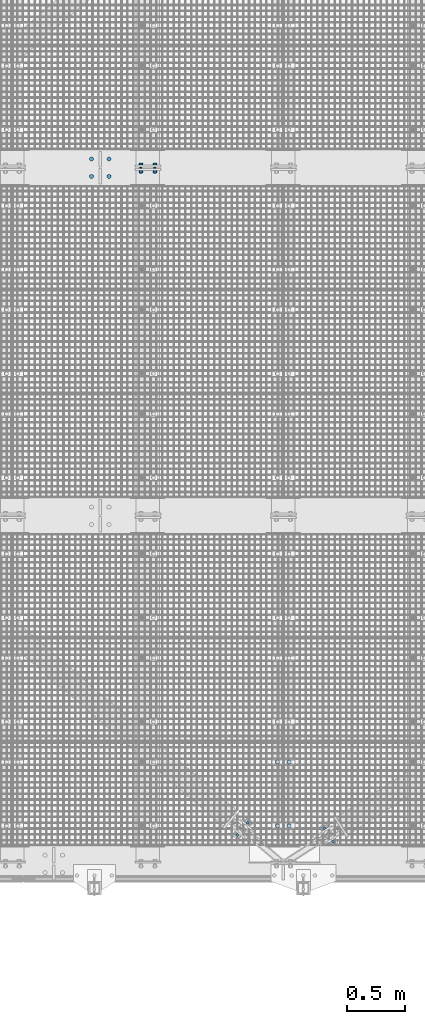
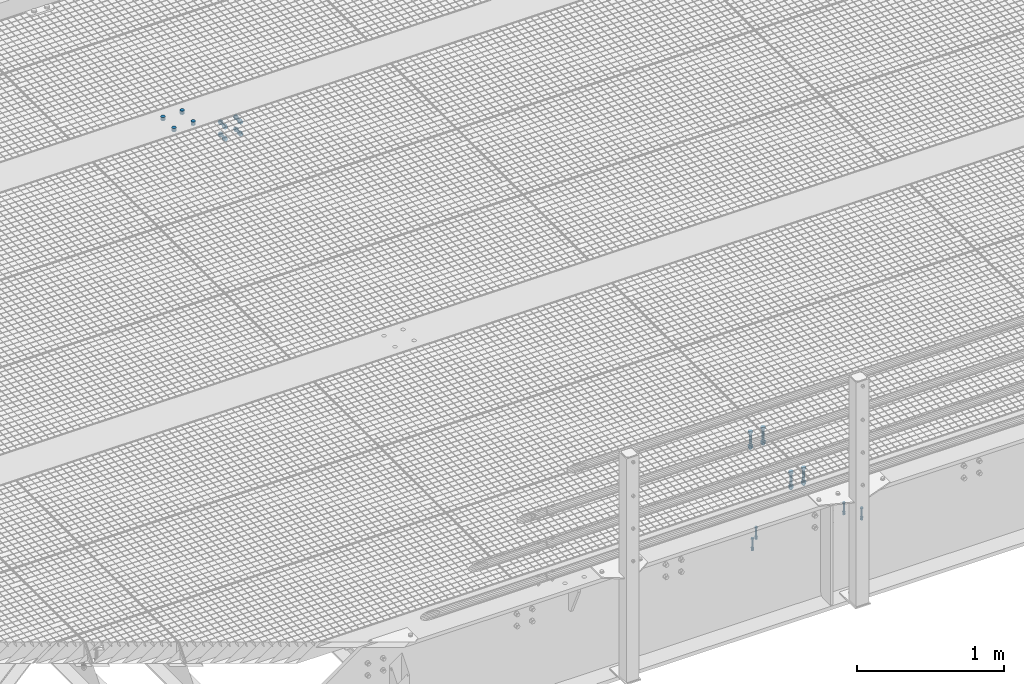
# One storey, part 16 of 1530: 6 mechanical fasteners.
"""IFC2X3 building model written with IfcOpenShell, lengths in millimetres."""

import ifcopenshell
import ifcopenshell.guid

model = None  # the IFC model being written
_history = None  # IfcOwnerHistory: only IFC2X3 demands one
_inside = {}  # id of a spatial element -> (the spatial element, [elements in it])
_under = {}  # id of a project, library or spatial element -> (it, [spatial elements below it])
_declared = {}  # id of a project -> (the project, [libraries it declares])
_typed = {}  # id of a type object -> (the type object, [elements of that type])
_made_of = {}  # id of a material, layer set ... -> (it, [elements and type objects made of it])


def new_model(schema):
    """Start an empty IFC model of exactly this schema.

    Asked for "IFC4X3", IfcOpenShell would pick the latest addendum, in which some entities
    have other attributes; the version numbers below select the first issue.
    IFC2X3 requires an IfcOwnerHistory on every rooted entity: one is made here for all.
    """
    global model, _history
    if schema == "IFC4X3":
        model = ifcopenshell.file(schema_version=(4, 3, 0, 0))
    else:
        model = ifcopenshell.file(schema=schema)
    _inside.clear()
    _under.clear()
    _declared.clear()
    _typed.clear()
    _made_of.clear()
    _history = None
    if model.schema == "IFC2X3":
        org = make("IfcOrganization", Name="unknown")
        user = make(
            "IfcPersonAndOrganization",
            ThePerson=make("IfcPerson", FamilyName="unknown"),
            TheOrganization=org,
        )
        app = make(
            "IfcApplication",
            ApplicationDeveloper=org,
            Version="unknown",
            ApplicationFullName="unknown",
            ApplicationIdentifier="unknown",
        )
        _history = make(
            "IfcOwnerHistory",
            OwningUser=user,
            OwningApplication=app,
            ChangeAction="ADDED",
            CreationDate=0,
        )
    return model


def make(cls, **values):
    """One entity of the class cls with the attributes given. An attribute that is None is left unset."""
    return model.create_entity(
        cls, **{name: value for name, value in values.items() if value is not None}
    )


def rooted(cls, **values):
    """An entity with a GlobalId (a new one), such as an element, a storey or a relation."""
    return make(cls, GlobalId=ifcopenshell.guid.new(), OwnerHistory=_history, **values)


def si_unit(unit_type, name, prefix=None):
    """IfcSIUnit, for example si_unit("LENGTHUNIT", "METRE", prefix="MILLI")."""
    return make("IfcSIUnit", UnitType=unit_type, Prefix=prefix, Name=name)


def assignment(units):
    """IfcUnitAssignment: the units of a project."""
    return None if units is None else make("IfcUnitAssignment", Units=units)


def point(xyz):
    """IfcCartesianPoint."""
    return None if xyz is None else make("IfcCartesianPoint", Coordinates=xyz)


def direction(xyz):
    """IfcDirection."""
    return None if xyz is None else make("IfcDirection", DirectionRatios=xyz)


def frame(location, z_axis=None, x_axis=None):
    """IfcAxis2Placement3D, a coordinate frame: its origin and axes. An axis left out is left unset."""
    return make(
        "IfcAxis2Placement3D",
        Location=point(location),
        Axis=direction(z_axis),
        RefDirection=direction(x_axis),
    )


def origin_with_axes():
    """The frame at (0, 0, 0) with the z axis (0, 0, 1) and the x axis (1, 0, 0) written out."""
    return frame((0.0, 0.0, 0.0), z_axis=(0.0, 0.0, 1.0), x_axis=(1.0, 0.0, 0.0))


def place(relative_to, where):
    """IfcLocalPlacement: puts the frame where relative to a parent placement (None: the world)."""
    return make(
        "IfcLocalPlacement", PlacementRelTo=relative_to, RelativePlacement=where
    )


def context(
    kind, dimensions, precision=None, world=None, true_north=None, identifier=None
):
    """IfcGeometricRepresentationContext, for example the 3D "Model" context."""
    return make(
        "IfcGeometricRepresentationContext",
        ContextIdentifier=identifier,
        ContextType=kind,
        CoordinateSpaceDimension=dimensions,
        Precision=precision,
        WorldCoordinateSystem=world,
        TrueNorth=true_north,
    )


def subcontext(parent, identifier, kind, view, scale=None):
    """IfcGeometricRepresentationSubContext, for example "Body" below "Model"."""
    return make(
        "IfcGeometricRepresentationSubContext",
        ContextIdentifier=identifier,
        ContextType=kind,
        ParentContext=parent,
        TargetScale=scale,
        TargetView=view,
    )


def project(units=None, contexts=None):
    """IfcProject with its units and contexts."""
    return rooted(
        "IfcProject",
        Name="project",
        RepresentationContexts=contexts,
        UnitsInContext=assignment(units),
    )


def spatial(cls, under=None, at=None, **own):
    """A site, building, storey or space (cls), placed at a placement, below another one or the project."""
    s = rooted(cls, ObjectPlacement=at, **own)
    if under is not None:
        _under.setdefault(under.id(), (under, []))[1].append(s)
    return s


def faces_of(points, faces, orient=None, outer=None):
    """IfcFace entities. A face is a list of loops; a loop is a list of indices into points, from 0.

    orient and outer hold one flag for each loop. By default every Orientation is true, the
    first loop of a face is its IfcFaceOuterBound and the others are IfcFaceBound.
    """
    made = []
    for i, loops in enumerate(faces):
        bounds = []
        for j, loop in enumerate(loops):
            is_outer = j == 0 if outer is None else outer[i][j]
            bounds.append(
                make(
                    "IfcFaceOuterBound" if is_outer else "IfcFaceBound",
                    Bound=make("IfcPolyLoop", Polygon=[points[k] for k in loop]),
                    Orientation=True if orient is None else orient[i][j],
                )
            )
        made.append(make("IfcFace", Bounds=bounds))
    return made


def faceted_brep(points, faces, orient=None, outer=None, voids=None):
    """IfcFacetedBrep: a solid bounded by flat faces; with voids (closed shells), ...WithVoids."""
    shared = [point(p) for p in points]
    hull = make("IfcClosedShell", CfsFaces=faces_of(shared, faces, orient, outer))
    if voids is None:
        return make("IfcFacetedBrep", Outer=hull)
    return make(
        "IfcFacetedBrepWithVoids",
        Outer=hull,
        Voids=[
            make(cls, CfsFaces=faces_of(shared, fs, o, b)) for cls, fs, o, b in voids
        ],
    )


def shape(context_of_items, identifier, shape_type, items):
    """IfcShapeRepresentation: the items that make up one representation, for example the "Body"."""
    return make(
        "IfcShapeRepresentation",
        ContextOfItems=context_of_items,
        RepresentationIdentifier=identifier,
        RepresentationType=shape_type,
        Items=items,
    )


def source(mapping_origin, context_of_items, identifier, shape_type, items):
    """IfcRepresentationMap: a shape defined once, which mapped items show again and again."""
    return make(
        "IfcRepresentationMap",
        MappingOrigin=mapping_origin,
        MappedRepresentation=shape(context_of_items, identifier, shape_type, items),
    )


def transform(
    local_origin,
    x_axis=None,
    y_axis=None,
    z_axis=None,
    scale=None,
    scale2=None,
    scale3=None,
    uniform=True,
):
    """IfcCartesianTransformationOperator3D, or its non-uniform kind. x_axis, y_axis, z_axis: its Axis1, 2, 3."""
    if uniform:
        return make(
            "IfcCartesianTransformationOperator3D",
            Axis1=direction(x_axis),
            Axis2=direction(y_axis),
            LocalOrigin=point(local_origin),
            Scale=scale,
            Axis3=direction(z_axis),
        )
    return make(
        "IfcCartesianTransformationOperator3DnonUniform",
        Axis1=direction(x_axis),
        Axis2=direction(y_axis),
        LocalOrigin=point(local_origin),
        Scale=scale,
        Axis3=direction(z_axis),
        Scale2=scale2,
        Scale3=scale3,
    )


def mapped(mapping_source, mapping_target):
    """IfcMappedItem: shows the shape of a source again, moved by a transform."""
    return make(
        "IfcMappedItem", MappingSource=mapping_source, MappingTarget=mapping_target
    )


def material(Name=None, Category=None):
    """IfcMaterial."""
    return make("IfcMaterial", Name=Name, Category=Category)


def made_of(thing, what):
    """Note that an element or type object is made of a material, layer set ...; save() writes the relation."""
    if what is not None:
        _made_of.setdefault(what.id(), (what, []))[1].append(thing)
    return thing


def type_object(cls, material=None, **own):
    """A type object (cls), such as IfcWallType, which elements share."""
    return made_of(rooted(cls, **own), material)


def element(
    cls,
    number,
    at=None,
    inside=None,
    cuts=None,
    type_object=None,
    material=None,
    context=None,
    identifier="Body",
    shape_type=None,
    held_by="IfcProductDefinitionShape",
    body=None,
    shapes=None,
    **own,
):
    """One element of the class cls, such as IfcWall. Its Tag is "e" and its number.

    at: its placement. inside: the storey or other place that contains it. cuts: it is an
    opening in that element (IfcRelVoidsElement). A single representation is given by context,
    identifier, shape_type and body (its items); several are given by shapes. held_by: the class
    of the entity that holds the representations. save() writes the other relations.
    """
    e = rooted(cls, Tag="e%d" % number, ObjectPlacement=at, **own)
    if body is not None:
        shapes = [shape(context, identifier, shape_type, body)]
    if shapes is not None:
        e.Representation = make(held_by, Representations=shapes)
    if inside is not None:
        _inside.setdefault(inside.id(), (inside, []))[1].append(e)
    if cuts is not None:
        rooted(
            "IfcRelVoidsElement", RelatingBuildingElement=cuts, RelatedOpeningElement=e
        )
    if type_object is not None:
        _typed.setdefault(type_object.id(), (type_object, []))[1].append(e)
    return made_of(e, material)


def aggregate(whole, parts):
    """IfcRelAggregates: a whole, such as a stair, and the parts it consists of."""
    return rooted("IfcRelAggregates", RelatingObject=whole, RelatedObjects=parts)


def save(model, path):
    """Write the relations noted so far, then the file.

    IfcRelAggregates (storeys below a building ...), IfcRelContainedInSpatialStructure (elements
    in a storey), IfcRelDefinesByType, IfcRelAssociatesMaterial and IfcRelDeclares: one each for
    every whole, place, type object, material and project.
    """
    for whole, parts in _under.values():
        aggregate(whole, parts)
    for where, things in _inside.values():
        rooted(
            "IfcRelContainedInSpatialStructure",
            RelatedElements=things,
            RelatingStructure=where,
        )
    for kind, things in _typed.values():
        rooted("IfcRelDefinesByType", RelatedObjects=things, RelatingType=kind)
    for what, things in _made_of.values():
        rooted("IfcRelAssociatesMaterial", RelatedObjects=things, RelatingMaterial=what)
    for by, libraries in _declared.values():
        rooted("IfcRelDeclares", RelatingContext=by, RelatedDefinitions=libraries)
    model.write(path)


model = new_model("IFC2X3")

# Units and contexts
model_context = context("Model", 3, precision=1e-05, world=origin_with_axes())
body_context = subcontext(model_context, "Body", "Model", "MODEL_VIEW")
ifc_project = project(units=[si_unit("LENGTHUNIT", "METRE", prefix="MILLI"), si_unit("AREAUNIT", "SQUARE_METRE"), si_unit("VOLUMEUNIT", "CUBIC_METRE"), si_unit("MASSUNIT", "GRAM", prefix="KILO"), si_unit("TIMEUNIT", "SECOND"), si_unit("PLANEANGLEUNIT", "RADIAN"), si_unit("SOLIDANGLEUNIT", "STERADIAN"), si_unit("THERMODYNAMICTEMPERATUREUNIT", "DEGREE_CELSIUS"), si_unit("LUMINOUSINTENSITYUNIT", "LUMEN")], contexts=[model_context])

# Site, building, storey
site_placement = place(None, origin_with_axes())
site = spatial("IfcSite", under=ifc_project, at=site_placement, Name="Brattvåg", CompositionType="ELEMENT")
building_placement = place(site_placement, origin_with_axes())
building = spatial("IfcBuilding", under=site, at=building_placement, Name="Undefined", CompositionType="ELEMENT")
storey_placement = place(building_placement, origin_with_axes())
storey = spatial("IfcBuildingStorey", under=building, at=storey_placement, Name="Undefined", CompositionType="ELEMENT", Elevation=0.0)

# Mechanical fasteners
ifc_material = material(Name="8")
mechanical_fastener_type = type_object("IfcMechanicalFastenerType", Name="Bolt assembly")
shared_shape_1 = source(origin_with_axes(), body_context, "Body", "Brep", [
    faceted_brep([(10.3923048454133, -9.99999999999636, 0.0), (5.19615242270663, -9.99999999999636, 9.0), (-5.19615242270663, -9.99999999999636, 9.0), (-10.3923048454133, -9.99999999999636, 1.27269028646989e-15), (-5.19615242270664, -9.99999999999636, -9.0), (5.19615242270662, -9.99999999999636, -9.0), (5.19615242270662, -2.49999999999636, -9.0), (-5.19615242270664, -2.49999999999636, -9.0), (-10.3923048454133, -2.49999999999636, 1.27269028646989e-15), (-5.19615242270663, -2.49999999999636, 9.0), (5.19615242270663, -2.49999999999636, 9.0), (10.3923048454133, -2.49999999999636, 0.0), (6.0, -2.49999999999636, 0.0), (5.19615242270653, -2.49999999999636, 3.00000000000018), (2.99999999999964, -2.49999999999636, 5.19615242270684), (-6.21801588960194e-13, -2.49999999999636, 6.0), (-3.00000000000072, -2.49999999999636, 5.19615242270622), (-5.19615242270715, -2.49999999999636, 2.9999999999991), (-6.0, -2.49999999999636, -1.24360317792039e-12), (-5.19615242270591, -2.49999999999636, -3.00000000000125), (-2.99999999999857, -2.49999999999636, -5.19615242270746), (1.85874342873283e-12, -2.49999999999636, -6.0), (3.00000000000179, -2.49999999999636, -5.1961524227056), (5.19615242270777, -2.49999999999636, -2.99999999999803), (5.19615242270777, 97.4999999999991, -2.99999999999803), (3.00000000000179, 97.4999999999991, -5.1961524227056), (1.85874342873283e-12, 97.4999999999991, -6.0), (-2.99999999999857, 97.4999999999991, -5.19615242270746), (-5.19615242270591, 97.4999999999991, -3.00000000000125), (-6.0, 97.4999999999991, -1.24360317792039e-12), (-5.19615242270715, 97.4999999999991, 2.9999999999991), (-3.00000000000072, 97.4999999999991, 5.19615242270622), (-6.21801588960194e-13, 97.4999999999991, 6.0), (2.99999999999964, 97.4999999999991, 5.19615242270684), (5.19615242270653, 97.4999999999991, 3.00000000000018), (6.0, 97.4999999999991, 0.0), (12.0, -2.49999999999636, 0.0), (10.3923048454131, -2.49999999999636, 6.00000000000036), (5.99999999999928, -2.49999999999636, 10.3923048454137), (-1.24360317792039e-12, -2.49999999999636, 12.0), (-6.00000000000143, -2.49999999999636, 10.3923048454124), (-10.3923048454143, -2.49999999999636, 5.99999999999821), (-12.0, -2.49999999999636, -2.48720635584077e-12), (-10.3923048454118, -2.49999999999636, -6.00000000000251), (-5.99999999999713, -2.49999999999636, -10.3923048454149), (3.71748685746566e-12, -2.49999999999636, -12.0), (6.00000000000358, -2.49999999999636, -10.3923048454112), (10.3923048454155, -2.49999999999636, -5.99999999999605), (10.3923048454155, 3.63797880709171e-12, -5.99999999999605), (6.00000000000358, 3.63797880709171e-12, -10.3923048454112), (3.71748685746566e-12, 3.63797880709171e-12, -12.0), (-5.99999999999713, 3.63797880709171e-12, -10.3923048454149), (-10.3923048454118, 3.63797880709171e-12, -6.00000000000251), (-12.0, 3.63797880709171e-12, -2.48720635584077e-12), (-10.3923048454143, 3.63797880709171e-12, 5.99999999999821), (-6.00000000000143, 3.63797880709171e-12, 10.3923048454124), (-1.24360317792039e-12, 3.63797880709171e-12, 12.0), (5.99999999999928, 3.63797880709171e-12, 10.3923048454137), (10.3923048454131, 3.63797880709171e-12, 6.00000000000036), (12.0, 3.63797880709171e-12, 0.0), (12.0, 69.9999999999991, 0.0), (10.3923048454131, 69.9999999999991, 6.00000000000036), (5.99999999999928, 69.9999999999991, 10.3923048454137), (-1.24360317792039e-12, 69.9999999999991, 12.0), (-6.00000000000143, 69.9999999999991, 10.3923048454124), (-10.3923048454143, 69.9999999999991, 5.99999999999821), (-12.0, 69.9999999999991, -2.48720635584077e-12), (-10.3923048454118, 69.9999999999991, -6.00000000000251), (-5.99999999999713, 69.9999999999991, -10.3923048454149), (3.71748685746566e-12, 69.9999999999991, -12.0), (6.00000000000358, 69.9999999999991, -10.3923048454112), (10.3923048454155, 69.9999999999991, -5.99999999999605), (10.3923048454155, 72.4999999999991, -5.99999999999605), (6.00000000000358, 72.4999999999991, -10.3923048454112), (3.71748685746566e-12, 72.4999999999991, -12.0), (-5.99999999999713, 72.4999999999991, -10.3923048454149), (-10.3923048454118, 72.4999999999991, -6.00000000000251), (-12.0, 72.4999999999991, -2.48720635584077e-12), (-10.3923048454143, 72.4999999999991, 5.99999999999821), (-6.00000000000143, 72.4999999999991, 10.3923048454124), (-1.24360317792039e-12, 72.4999999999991, 12.0), (5.99999999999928, 72.4999999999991, 10.3923048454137), (10.3923048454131, 72.4999999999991, 6.00000000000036), (12.0, 72.4999999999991, 0.0), (10.3923048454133, 72.4999999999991, 0.0), (5.19615242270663, 72.4999999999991, 9.0), (-5.19615242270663, 72.4999999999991, 9.0), (-10.3923048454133, 72.4999999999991, 1.27269028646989e-15), (-5.19615242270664, 72.4999999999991, -9.0), (5.19615242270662, 72.4999999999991, -9.0), (5.19615242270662, 83.300000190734, -9.0), (-5.19615242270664, 83.300000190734, -9.0), (-10.3923048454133, 83.300000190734, 1.27269028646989e-15), (-5.19615242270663, 83.300000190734, 9.0), (5.19615242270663, 83.300000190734, 9.0), (10.3923048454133, 83.300000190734, 0.0), (9.0, 83.300000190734, 5.19615242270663), (6.36345143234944e-16, 83.300000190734, 10.3923048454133), (-9.0, 83.300000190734, 5.19615242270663), (-9.0, 83.300000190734, -5.19615242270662), (-1.11392563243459e-14, 83.300000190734, -10.3923048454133), (8.99999999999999, 83.300000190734, -5.19615242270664), (8.99999999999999, 94.1000003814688, -5.19615242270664), (-1.11392563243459e-14, 94.1000003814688, -10.3923048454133), (-9.0, 94.1000003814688, -5.19615242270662), (-9.0, 94.1000003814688, 5.19615242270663), (6.36345143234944e-16, 94.1000003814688, 10.3923048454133), (9.0, 94.1000003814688, 5.19615242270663)], [[[0, 1, 2, 3, 4, 5]], [[6, 7, 8, 9, 10, 11]], [[0, 11, 10, 1]], [[1, 10, 9, 2]], [[2, 9, 8, 3]], [[3, 8, 7, 4]], [[4, 7, 6, 5]], [[5, 6, 11, 0]], [[12, 13, 14, 15, 16, 17, 18, 19, 20, 21, 22, 23]], [[24, 25, 26, 27, 28, 29, 30, 31, 32, 33, 34, 35]], [[12, 35, 34, 13]], [[13, 34, 33, 14]], [[14, 33, 32, 15]], [[15, 32, 31, 16]], [[16, 31, 30, 17]], [[17, 30, 29, 18]], [[18, 29, 28, 19]], [[19, 28, 27, 20]], [[20, 27, 26, 21]], [[21, 26, 25, 22]], [[22, 25, 24, 23]], [[23, 24, 35, 12]], [[36, 37, 38, 39, 40, 41, 42, 43, 44, 45, 46, 47]], [[48, 49, 50, 51, 52, 53, 54, 55, 56, 57, 58, 59]], [[36, 59, 58, 37]], [[37, 58, 57, 38]], [[38, 57, 56, 39]], [[39, 56, 55, 40]], [[40, 55, 54, 41]], [[41, 54, 53, 42]], [[42, 53, 52, 43]], [[43, 52, 51, 44]], [[44, 51, 50, 45]], [[45, 50, 49, 46]], [[46, 49, 48, 47]], [[47, 48, 59, 36]], [[60, 61, 62, 63, 64, 65, 66, 67, 68, 69, 70, 71]], [[72, 73, 74, 75, 76, 77, 78, 79, 80, 81, 82, 83]], [[60, 83, 82, 61]], [[61, 82, 81, 62]], [[62, 81, 80, 63]], [[63, 80, 79, 64]], [[64, 79, 78, 65]], [[65, 78, 77, 66]], [[66, 77, 76, 67]], [[67, 76, 75, 68]], [[68, 75, 74, 69]], [[69, 74, 73, 70]], [[70, 73, 72, 71]], [[71, 72, 83, 60]], [[84, 85, 86, 87, 88, 89]], [[90, 91, 92, 93, 94, 95]], [[84, 95, 94, 85]], [[85, 94, 93, 86]], [[86, 93, 92, 87]], [[87, 92, 91, 88]], [[88, 91, 90, 89]], [[89, 90, 95, 84]], [[96, 97, 98, 99, 100, 101]], [[102, 103, 104, 105, 106, 107]], [[96, 107, 106, 97]], [[97, 106, 105, 98]], [[98, 105, 104, 99]], [[99, 104, 103, 100]], [[100, 103, 102, 101]], [[101, 102, 107, 96]]]),
    faceted_brep([(7.0, -9.09494701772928e-13, 0.0), (6.06217782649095, -9.09494701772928e-13, 3.50000000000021), (3.49999999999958, -9.09494701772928e-13, 6.06217782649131), (-7.25435187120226e-13, -9.09494701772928e-13, 7.0), (-3.50000000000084, -9.09494701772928e-13, 6.06217782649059), (-6.06217782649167, -9.09494701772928e-13, 3.49999999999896), (-7.0, -9.09494701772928e-13, -1.45087037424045e-12), (-6.06217782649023, -9.09494701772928e-13, -3.50000000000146), (-3.49999999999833, -9.09494701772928e-13, -6.06217782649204), (2.1685340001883e-12, -9.09494701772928e-13, -7.0), (3.50000000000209, -9.09494701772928e-13, -6.06217782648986), (6.0621778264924, -9.09494701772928e-13, -3.4999999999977), (6.0621778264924, 70.0999999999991, -3.4999999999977), (3.50000000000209, 70.0999999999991, -6.06217782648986), (2.1685340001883e-12, 70.0999999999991, -7.0), (-3.49999999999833, 70.0999999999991, -6.06217782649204), (-6.06217782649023, 70.0999999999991, -3.50000000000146), (-7.0, 70.0999999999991, -1.45087037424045e-12), (-6.06217782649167, 70.0999999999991, 3.49999999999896), (-3.50000000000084, 70.0999999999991, 6.06217782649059), (-7.25435187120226e-13, 70.0999999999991, 7.0), (3.49999999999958, 70.0999999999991, 6.06217782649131), (6.06217782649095, 70.0999999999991, 3.50000000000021), (7.0, 70.0999999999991, 0.0)], [[[0, 1, 2, 3, 4, 5, 6, 7, 8, 9, 10, 11]], [[12, 13, 14, 15, 16, 17, 18, 19, 20, 21, 22, 23]], [[0, 23, 22, 1]], [[1, 22, 21, 2]], [[2, 21, 20, 3]], [[3, 20, 19, 4]], [[4, 19, 18, 5]], [[5, 18, 17, 6]], [[6, 17, 16, 7]], [[7, 16, 15, 8]], [[8, 15, 14, 9]], [[9, 14, 13, 10]], [[10, 13, 12, 11]], [[11, 12, 23, 0]]]),
])
for number, where, z_axis, x_axis, name in (
    (1, (7269.75219366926, 353.425214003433, -410.000000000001), (0.759623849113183, -0.650362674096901, 0.0), (-0.650362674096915, -0.759623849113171, 0.0), "Bolt assembly"),
    (2, (8005.18165441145, 193.501244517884, -410.000000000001), (-0.841459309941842, -0.540320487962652, 0.0), (-0.540320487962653, 0.841459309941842, 0.0), "Bolt assembly"),
):
    element("IfcMechanicalFastener", number, at=place(storey_placement, frame(where, z_axis=z_axis, x_axis=x_axis)), inside=storey, type_object=mechanical_fastener_type, material=ifc_material, Name=name, NominalDiameter=12.0, NominalLength=100.0, context=body_context, shape_type="MappedRepresentation", body=[
        mapped(shared_shape_1, transform((0.0, 0.0, 0.0))),
        mapped(shared_shape_1, transform((136.0, 0.0, 0.0))),
    ])
shared_shape_2 = source(origin_with_axes(), body_context, "Body", "Brep", [
    faceted_brep([(17.3205080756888, -10.5, 0.0), (8.66025403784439, -10.5, 15.0), (-8.66025403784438, -10.5, 15.0), (-17.3205080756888, -10.5, 2.12115047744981e-15), (-8.66025403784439, -10.5, -15.0), (8.66025403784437, -10.5, -15.0), (8.66025403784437, 2.0, -15.0), (-8.66025403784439, 2.0, -15.0), (-17.3205080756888, 2.0, 2.12115047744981e-15), (-8.66025403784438, 2.0, 15.0), (8.66025403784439, 2.0, 15.0), (17.3205080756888, 2.0, 0.0), (10.0, 2.0, 0.0), (8.66025403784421, 2.0, 5.0000000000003), (4.9999999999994, 2.0, 8.66025403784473), (-1.03633598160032e-12, 2.0, 10.0), (-5.00000000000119, 2.0, 8.6602540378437), (-8.66025403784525, 2.0, 4.99999999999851), (-10.0, 2.0, -2.07267196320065e-12), (-8.66025403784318, 2.0, -5.00000000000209), (-4.99999999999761, 2.0, -8.66025403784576), (3.09790571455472e-12, 2.0, -10.0), (5.00000000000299, 2.0, -8.66025403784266), (8.66025403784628, 2.0, -4.99999999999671), (8.66025403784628, 142.0, -4.99999999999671), (5.00000000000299, 142.0, -8.66025403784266), (3.09790571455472e-12, 142.0, -10.0), (-4.99999999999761, 142.0, -8.66025403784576), (-8.66025403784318, 142.0, -5.00000000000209), (-10.0, 142.0, -2.07267196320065e-12), (-8.66025403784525, 142.0, 4.99999999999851), (-5.00000000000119, 142.0, 8.6602540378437), (-1.03633598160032e-12, 142.0, 10.0), (4.9999999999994, 142.0, 8.66025403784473), (8.66025403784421, 142.0, 5.0000000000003), (10.0, 142.0, 0.0), (18.5, 2.0, 0.0), (16.0214699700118, 2.0, 9.25000000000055), (9.2499999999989, 2.0, 16.0214699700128), (-1.9172215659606e-12, 2.0, 18.5), (-9.25000000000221, 2.0, 16.0214699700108), (-16.0214699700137, 2.0, 9.24999999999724), (-18.5, 2.0, -3.83444313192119e-12), (-16.0214699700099, 2.0, -9.25000000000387), (-9.24999999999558, 2.0, -16.0214699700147), (5.73112557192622e-12, 2.0, -18.5), (9.25000000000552, 2.0, -16.0214699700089), (16.0214699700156, 2.0, -9.24999999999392), (16.0214699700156, 5.0, -9.24999999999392), (9.25000000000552, 5.0, -16.0214699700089), (5.73112557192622e-12, 5.0, -18.5), (-9.24999999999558, 5.0, -16.0214699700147), (-16.0214699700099, 5.0, -9.25000000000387), (-18.5, 5.0, -3.83444313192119e-12), (-16.0214699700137, 5.0, 9.24999999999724), (-9.25000000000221, 5.0, 16.0214699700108), (-1.9172215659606e-12, 5.0, 18.5), (9.2499999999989, 5.0, 16.0214699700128), (16.0214699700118, 5.0, 9.25000000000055), (18.5, 5.0, 0.0), (18.5, 109.998931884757, 0.0), (16.0214699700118, 109.998931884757, 9.25000000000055), (9.2499999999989, 109.998931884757, 16.0214699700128), (-1.9172215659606e-12, 109.998931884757, 18.5), (-9.25000000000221, 109.998931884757, 16.0214699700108), (-16.0214699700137, 109.998931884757, 9.24999999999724), (-18.5, 109.998931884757, -3.83444313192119e-12), (-16.0214699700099, 109.998931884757, -9.25000000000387), (-9.24999999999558, 109.998931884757, -16.0214699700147), (5.73112557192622e-12, 109.998931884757, -18.5), (9.25000000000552, 109.998931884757, -16.0214699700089), (16.0214699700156, 109.998931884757, -9.24999999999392), (16.0214699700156, 112.998931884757, -9.24999999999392), (9.25000000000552, 112.998931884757, -16.0214699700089), (5.73112557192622e-12, 112.998931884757, -18.5), (-9.24999999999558, 112.998931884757, -16.0214699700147), (-16.0214699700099, 112.998931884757, -9.25000000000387), (-18.5, 112.998931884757, -3.83444313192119e-12), (-16.0214699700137, 112.998931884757, 9.24999999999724), (-9.25000000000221, 112.998931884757, 16.0214699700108), (-1.9172215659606e-12, 112.998931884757, 18.5), (9.2499999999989, 112.998931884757, 16.0214699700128), (16.0214699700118, 112.998931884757, 9.25000000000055), (18.5, 112.998931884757, 0.0), (17.3205080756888, 112.998931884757, 0.0), (8.66025403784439, 112.998931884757, 15.0), (-8.66025403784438, 112.998931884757, 15.0), (-17.3205080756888, 112.998931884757, 2.12115047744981e-15), (-8.66025403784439, 112.998931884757, -15.0), (8.66025403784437, 112.998931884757, -15.0), (8.66025403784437, 130.998931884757, -15.0), (-8.66025403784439, 130.998931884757, -15.0), (-17.3205080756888, 130.998931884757, 2.12115047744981e-15), (-8.66025403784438, 130.998931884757, 15.0), (8.66025403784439, 130.998931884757, 15.0), (17.3205080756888, 130.998931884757, 0.0)], [[[0, 1, 2, 3, 4, 5]], [[6, 7, 8, 9, 10, 11]], [[0, 11, 10, 1]], [[1, 10, 9, 2]], [[2, 9, 8, 3]], [[3, 8, 7, 4]], [[4, 7, 6, 5]], [[5, 6, 11, 0]], [[12, 13, 14, 15, 16, 17, 18, 19, 20, 21, 22, 23]], [[24, 25, 26, 27, 28, 29, 30, 31, 32, 33, 34, 35]], [[12, 35, 34, 13]], [[13, 34, 33, 14]], [[14, 33, 32, 15]], [[15, 32, 31, 16]], [[16, 31, 30, 17]], [[17, 30, 29, 18]], [[18, 29, 28, 19]], [[19, 28, 27, 20]], [[20, 27, 26, 21]], [[21, 26, 25, 22]], [[22, 25, 24, 23]], [[23, 24, 35, 12]], [[36, 37, 38, 39, 40, 41, 42, 43, 44, 45, 46, 47]], [[48, 49, 50, 51, 52, 53, 54, 55, 56, 57, 58, 59]], [[36, 59, 58, 37]], [[37, 58, 57, 38]], [[38, 57, 56, 39]], [[39, 56, 55, 40]], [[40, 55, 54, 41]], [[41, 54, 53, 42]], [[42, 53, 52, 43]], [[43, 52, 51, 44]], [[44, 51, 50, 45]], [[45, 50, 49, 46]], [[46, 49, 48, 47]], [[47, 48, 59, 36]], [[60, 61, 62, 63, 64, 65, 66, 67, 68, 69, 70, 71]], [[72, 73, 74, 75, 76, 77, 78, 79, 80, 81, 82, 83]], [[60, 83, 82, 61]], [[61, 82, 81, 62]], [[62, 81, 80, 63]], [[63, 80, 79, 64]], [[64, 79, 78, 65]], [[65, 78, 77, 66]], [[66, 77, 76, 67]], [[67, 76, 75, 68]], [[68, 75, 74, 69]], [[69, 74, 73, 70]], [[70, 73, 72, 71]], [[71, 72, 83, 60]], [[84, 85, 86, 87, 88, 89]], [[90, 91, 92, 93, 94, 95]], [[84, 95, 94, 85]], [[85, 94, 93, 86]], [[86, 93, 92, 87]], [[87, 92, 91, 88]], [[88, 91, 90, 89]], [[89, 90, 95, 84]]]),
])
for number, where, z_axis, x_axis, name in (
    (3, (7628.00477935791, 327.919311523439, -25.0), (-1.0, 1.99999855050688e-09, 0.0), (0.0, 1.0, 0.0), "Bolt assembly"),
    (4, (7528.01487731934, 327.920486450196, -25.0), (-1.0, 1.99999855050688e-09, 0.0), (0.0, 1.0, 0.0), "Bolt assembly"),
):
    element("IfcMechanicalFastener", number, at=place(storey_placement, frame(where, z_axis=z_axis, x_axis=x_axis)), inside=storey, type_object=mechanical_fastener_type, material=ifc_material, Name=name, NominalDiameter=20.0, NominalLength=140.0, context=body_context, shape_type="MappedRepresentation", body=[
        mapped(shared_shape_2, transform((0.0, 0.0, 0.0))),
        mapped(shared_shape_2, transform((549.999999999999, 0.0, 0.0))),
    ])
shared_shape_3 = source(origin_with_axes(), body_context, "Body", "Brep", [
    faceted_brep([(16.0, 0.0, 0.0), (13.8564064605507, 0.0, 8.00000000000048), (7.99999999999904, 0.0, 13.8564064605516), (-1.65813757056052e-12, 0.0, 16.0), (-8.00000000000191, 0.0, 13.8564064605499), (-13.8564064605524, 0.0, 7.99999999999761), (-16.0, 0.0, -3.31627514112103e-12), (-13.8564064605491, 0.0, -8.00000000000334), (-7.99999999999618, 0.0, -13.8564064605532), (4.95664914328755e-12, 0.0, -16.0), (8.00000000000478, 0.0, -13.8564064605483), (13.8564064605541, 0.0, -7.99999999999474), (13.8564064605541, 30.1, -7.99999999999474), (8.00000000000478, 30.1, -13.8564064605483), (4.95664914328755e-12, 30.1, -16.0), (-7.99999999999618, 30.1, -13.8564064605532), (-13.8564064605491, 30.1, -8.00000000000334), (-16.0, 30.1, -3.31627514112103e-12), (-13.8564064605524, 30.1, 7.99999999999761), (-8.00000000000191, 30.1, 13.8564064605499), (-1.65813757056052e-12, 30.1, 16.0), (7.99999999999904, 30.1, 13.8564064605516), (13.8564064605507, 30.1, 8.00000000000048), (16.0, 30.1, 0.0)], [[[0, 1, 2, 3, 4, 5, 6, 7, 8, 9, 10, 11]], [[12, 13, 14, 15, 16, 17, 18, 19, 20, 21, 22, 23]], [[0, 23, 22, 1]], [[1, 22, 21, 2]], [[2, 21, 20, 3]], [[3, 20, 19, 4]], [[4, 19, 18, 5]], [[5, 18, 17, 6]], [[6, 17, 16, 7]], [[7, 16, 15, 8]], [[8, 15, 14, 9]], [[9, 14, 13, 10]], [[10, 13, 12, 11]], [[11, 12, 23, 0]]]),
])
mechanical_fastener_1_placement = place(storey_placement, frame((6075.0, 6000.0, 0.0), z_axis=(0.0, -1.0, 0.0), x_axis=(-1.0, 1.99999855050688e-09, 0.0)))
element("IfcMechanicalFastener", 5, at=mechanical_fastener_1_placement, inside=storey, type_object=mechanical_fastener_type, material=ifc_material, Name="Bolt assembly", NominalDiameter=30.0, NominalLength=30.0, context=body_context, shape_type="MappedRepresentation", body=[
    mapped(shared_shape_3, transform((0.0, 0.0, -75.0))),
    mapped(shared_shape_3, transform((150.0, 0.0, -75.0))),
    mapped(shared_shape_3, transform((0.0, 0.0, 75.0))),
    mapped(shared_shape_3, transform((150.0, 0.0, 75.0))),
])
shared_shape_4 = source(origin_with_axes(), body_context, "Body", "Brep", [
    faceted_brep([(17.3205080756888, -15.5000000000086, 0.0), (8.66025403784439, -15.5000000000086, 15.0), (-8.66025403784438, -15.5000000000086, 15.0), (-17.3205080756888, -15.5000000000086, 2.12115047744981e-15), (-8.66025403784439, -15.5000000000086, -15.0), (8.66025403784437, -15.5000000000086, -15.0), (8.66025403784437, -3.00000000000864, -15.0), (-8.66025403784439, -3.00000000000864, -15.0), (-17.3205080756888, -3.00000000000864, 2.12115047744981e-15), (-8.66025403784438, -3.00000000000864, 15.0), (8.66025403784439, -3.00000000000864, 15.0), (17.3205080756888, -3.00000000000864, 0.0), (10.0, -3.00000000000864, 0.0), (8.66025403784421, -3.00000000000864, 5.0000000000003), (4.9999999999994, -3.00000000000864, 8.66025403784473), (-1.03633598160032e-12, -3.00000000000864, 10.0), (-5.00000000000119, -3.00000000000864, 8.6602540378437), (-8.66025403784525, -3.00000000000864, 4.99999999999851), (-10.0, -3.00000000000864, -2.07267196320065e-12), (-8.66025403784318, -3.00000000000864, -5.00000000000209), (-4.99999999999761, -3.00000000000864, -8.66025403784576), (3.09790571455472e-12, -3.00000000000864, -10.0), (5.00000000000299, -3.00000000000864, -8.66025403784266), (8.66025403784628, -3.00000000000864, -4.99999999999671), (8.66025403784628, 72.0, -4.99999999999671), (5.00000000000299, 72.0, -8.66025403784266), (3.09790571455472e-12, 72.0, -10.0), (-4.99999999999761, 72.0, -8.66025403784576), (-8.66025403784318, 72.0, -5.00000000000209), (-10.0, 72.0, -2.07267196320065e-12), (-8.66025403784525, 72.0, 4.99999999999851), (-5.00000000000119, 72.0, 8.6602540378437), (-1.03633598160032e-12, 72.0, 10.0), (4.9999999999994, 72.0, 8.66025403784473), (8.66025403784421, 72.0, 5.0000000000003), (10.0, 72.0, 0.0), (18.5, -3.00000000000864, 0.0), (16.0214699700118, -3.00000000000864, 9.25000000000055), (9.2499999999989, -3.00000000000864, 16.0214699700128), (-1.9172215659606e-12, -3.00000000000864, 18.5), (-9.25000000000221, -3.00000000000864, 16.0214699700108), (-16.0214699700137, -3.00000000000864, 9.24999999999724), (-18.5, -3.00000000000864, -3.83444313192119e-12), (-16.0214699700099, -3.00000000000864, -9.25000000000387), (-9.24999999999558, -3.00000000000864, -16.0214699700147), (5.73112557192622e-12, -3.00000000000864, -18.5), (9.25000000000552, -3.00000000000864, -16.0214699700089), (16.0214699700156, -3.00000000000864, -9.24999999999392), (16.0214699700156, -8.64019966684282e-12, -9.24999999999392), (9.25000000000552, -8.64019966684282e-12, -16.0214699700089), (5.73112557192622e-12, -8.64019966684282e-12, -18.5), (-9.24999999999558, -8.64019966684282e-12, -16.0214699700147), (-16.0214699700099, -8.64019966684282e-12, -9.25000000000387), (-18.5, -8.64019966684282e-12, -3.83444313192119e-12), (-16.0214699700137, -8.64019966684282e-12, 9.24999999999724), (-9.25000000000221, -8.64019966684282e-12, 16.0214699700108), (-1.9172215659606e-12, -8.64019966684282e-12, 18.5), (9.2499999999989, -8.64019966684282e-12, 16.0214699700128), (16.0214699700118, -8.64019966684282e-12, 9.25000000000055), (18.5, -8.64019966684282e-12, 0.0), (18.5, 46.000061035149, 0.0), (16.0214699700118, 46.000061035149, 9.25000000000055), (9.2499999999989, 46.000061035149, 16.0214699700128), (-1.9172215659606e-12, 46.000061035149, 18.5), (-9.25000000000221, 46.000061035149, 16.0214699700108), (-16.0214699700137, 46.000061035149, 9.24999999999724), (-18.5, 46.000061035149, -3.83444313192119e-12), (-16.0214699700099, 46.000061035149, -9.25000000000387), (-9.24999999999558, 46.000061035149, -16.0214699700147), (5.73112557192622e-12, 46.000061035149, -18.5), (9.25000000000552, 46.000061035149, -16.0214699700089), (16.0214699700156, 46.000061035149, -9.24999999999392), (16.0214699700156, 49.000061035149, -9.24999999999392), (9.25000000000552, 49.000061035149, -16.0214699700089), (5.73112557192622e-12, 49.000061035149, -18.5), (-9.24999999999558, 49.000061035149, -16.0214699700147), (-16.0214699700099, 49.000061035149, -9.25000000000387), (-18.5, 49.000061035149, -3.83444313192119e-12), (-16.0214699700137, 49.000061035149, 9.24999999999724), (-9.25000000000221, 49.000061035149, 16.0214699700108), (-1.9172215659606e-12, 49.000061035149, 18.5), (9.2499999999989, 49.000061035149, 16.0214699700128), (16.0214699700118, 49.000061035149, 9.25000000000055), (18.5, 49.000061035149, 0.0), (17.3205080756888, 49.000061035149, 0.0), (8.66025403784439, 49.000061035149, 15.0), (-8.66025403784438, 49.000061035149, 15.0), (-17.3205080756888, 49.000061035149, 2.12115047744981e-15), (-8.66025403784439, 49.000061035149, -15.0), (8.66025403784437, 49.000061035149, -15.0), (8.66025403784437, 67.000061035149, -15.0), (-8.66025403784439, 67.000061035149, -15.0), (-17.3205080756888, 67.000061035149, 2.12115047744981e-15), (-8.66025403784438, 67.000061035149, 15.0), (8.66025403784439, 67.000061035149, 15.0), (17.3205080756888, 67.000061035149, 0.0)], [[[0, 1, 2, 3, 4, 5]], [[6, 7, 8, 9, 10, 11]], [[0, 11, 10, 1]], [[1, 10, 9, 2]], [[2, 9, 8, 3]], [[3, 8, 7, 4]], [[4, 7, 6, 5]], [[5, 6, 11, 0]], [[12, 13, 14, 15, 16, 17, 18, 19, 20, 21, 22, 23]], [[24, 25, 26, 27, 28, 29, 30, 31, 32, 33, 34, 35]], [[12, 35, 34, 13]], [[13, 34, 33, 14]], [[14, 33, 32, 15]], [[15, 32, 31, 16]], [[16, 31, 30, 17]], [[17, 30, 29, 18]], [[18, 29, 28, 19]], [[19, 28, 27, 20]], [[20, 27, 26, 21]], [[21, 26, 25, 22]], [[22, 25, 24, 23]], [[23, 24, 35, 12]], [[36, 37, 38, 39, 40, 41, 42, 43, 44, 45, 46, 47]], [[48, 49, 50, 51, 52, 53, 54, 55, 56, 57, 58, 59]], [[36, 59, 58, 37]], [[37, 58, 57, 38]], [[38, 57, 56, 39]], [[39, 56, 55, 40]], [[40, 55, 54, 41]], [[41, 54, 53, 42]], [[42, 53, 52, 43]], [[43, 52, 51, 44]], [[44, 51, 50, 45]], [[45, 50, 49, 46]], [[46, 49, 48, 47]], [[47, 48, 59, 36]], [[60, 61, 62, 63, 64, 65, 66, 67, 68, 69, 70, 71]], [[72, 73, 74, 75, 76, 77, 78, 79, 80, 81, 82, 83]], [[60, 83, 82, 61]], [[61, 82, 81, 62]], [[62, 81, 80, 63]], [[63, 80, 79, 64]], [[64, 79, 78, 65]], [[65, 78, 77, 66]], [[66, 77, 76, 67]], [[67, 76, 75, 68]], [[68, 75, 74, 69]], [[69, 74, 73, 70]], [[70, 73, 72, 71]], [[71, 72, 83, 60]], [[84, 85, 86, 87, 88, 89]], [[90, 91, 92, 93, 94, 95]], [[84, 95, 94, 85]], [[85, 94, 93, 86]], [[86, 93, 92, 87]], [[87, 92, 91, 88]], [[88, 91, 90, 89]], [[89, 90, 95, 84]]]),
    faceted_brep([(11.0, 0.1, 0.0), (9.52627944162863, 0.1, 5.50000000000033), (5.49999999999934, 0.1, 9.5262794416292), (-1.13996957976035e-12, 0.1, 11.0), (-5.50000000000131, 0.1, 9.52627944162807), (-9.52627944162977, 0.1, 5.49999999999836), (-11.0, 0.1, -2.27993915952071e-12), (-9.5262794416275, 0.1, -5.5000000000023), (-5.49999999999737, 0.1, -9.52627944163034), (3.40769628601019e-12, 0.1, -11.0), (5.50000000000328, 0.1, -9.52627944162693), (9.52627944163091, 0.1, -5.49999999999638), (9.52627944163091, 15.1, -5.49999999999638), (5.50000000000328, 15.1, -9.52627944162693), (3.40769628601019e-12, 15.1, -11.0), (-5.49999999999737, 15.1, -9.52627944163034), (-9.5262794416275, 15.1, -5.5000000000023), (-11.0, 15.1, -2.27993915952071e-12), (-9.52627944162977, 15.1, 5.49999999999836), (-5.50000000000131, 15.1, 9.52627944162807), (-1.13996957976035e-12, 15.1, 11.0), (5.49999999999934, 15.1, 9.5262794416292), (9.52627944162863, 15.1, 5.50000000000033), (11.0, 15.1, 0.0), (11.0, 15.0015563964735, 0.0), (9.52627944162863, 15.0015563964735, 5.50000000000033), (5.49999999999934, 15.0015563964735, 9.5262794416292), (-1.13996957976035e-12, 15.0015563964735, 11.0), (-5.50000000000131, 15.0015563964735, 9.52627944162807), (-9.52627944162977, 15.0015563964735, 5.49999999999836), (-11.0, 15.0015563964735, -2.27993915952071e-12), (-9.5262794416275, 15.0015563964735, -5.5000000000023), (-5.49999999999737, 15.0015563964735, -9.52627944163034), (3.40769628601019e-12, 15.0015563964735, -11.0), (5.50000000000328, 15.0015563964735, -9.52627944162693), (9.52627944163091, 15.0015563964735, -5.49999999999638), (9.52627944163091, 31.0015563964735, -5.49999999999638), (5.50000000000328, 31.0015563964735, -9.52627944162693), (3.40769628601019e-12, 31.0015563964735, -11.0), (-5.49999999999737, 31.0015563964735, -9.52627944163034), (-9.5262794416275, 31.0015563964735, -5.5000000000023), (-11.0, 31.0015563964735, -2.27993915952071e-12), (-9.52627944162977, 31.0015563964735, 5.49999999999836), (-5.50000000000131, 31.0015563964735, 9.52627944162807), (-1.13996957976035e-12, 31.0015563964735, 11.0), (5.49999999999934, 31.0015563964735, 9.5262794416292), (9.52627944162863, 31.0015563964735, 5.50000000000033), (11.0, 31.0015563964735, 0.0), (11.0, 30.900061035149, 0.0), (9.52627944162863, 30.900061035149, 5.50000000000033), (5.49999999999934, 30.900061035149, 9.5262794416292), (-1.13996957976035e-12, 30.900061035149, 11.0), (-5.50000000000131, 30.900061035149, 9.52627944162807), (-9.52627944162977, 30.900061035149, 5.49999999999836), (-11.0, 30.900061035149, -2.27993915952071e-12), (-9.5262794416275, 30.900061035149, -5.5000000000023), (-5.49999999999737, 30.900061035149, -9.52627944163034), (3.40769628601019e-12, 30.900061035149, -11.0), (5.50000000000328, 30.900061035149, -9.52627944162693), (9.52627944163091, 30.900061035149, -5.49999999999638), (9.52627944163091, 46.000061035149, -5.49999999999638), (5.50000000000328, 46.000061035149, -9.52627944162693), (3.40769628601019e-12, 46.000061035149, -11.0), (-5.49999999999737, 46.000061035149, -9.52627944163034), (-9.5262794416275, 46.000061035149, -5.5000000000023), (-11.0, 46.000061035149, -2.27993915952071e-12), (-9.52627944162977, 46.000061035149, 5.49999999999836), (-5.50000000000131, 46.000061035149, 9.52627944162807), (-1.13996957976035e-12, 46.000061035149, 11.0), (5.49999999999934, 46.000061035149, 9.5262794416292), (9.52627944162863, 46.000061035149, 5.50000000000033), (11.0, 46.000061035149, 0.0)], [[[0, 1, 2, 3, 4, 5, 6, 7, 8, 9, 10, 11]], [[12, 13, 14, 15, 16, 17, 18, 19, 20, 21, 22, 23]], [[0, 23, 22, 1]], [[1, 22, 21, 2]], [[2, 21, 20, 3]], [[3, 20, 19, 4]], [[4, 19, 18, 5]], [[5, 18, 17, 6]], [[6, 17, 16, 7]], [[7, 16, 15, 8]], [[8, 15, 14, 9]], [[9, 14, 13, 10]], [[10, 13, 12, 11]], [[11, 12, 23, 0]], [[24, 25, 26, 27, 28, 29, 30, 31, 32, 33, 34, 35]], [[36, 37, 38, 39, 40, 41, 42, 43, 44, 45, 46, 47]], [[24, 47, 46, 25]], [[25, 46, 45, 26]], [[26, 45, 44, 27]], [[27, 44, 43, 28]], [[28, 43, 42, 29]], [[29, 42, 41, 30]], [[30, 41, 40, 31]], [[31, 40, 39, 32]], [[32, 39, 38, 33]], [[33, 38, 37, 34]], [[34, 37, 36, 35]], [[35, 36, 47, 24]], [[48, 49, 50, 51, 52, 53, 54, 55, 56, 57, 58, 59]], [[60, 61, 62, 63, 64, 65, 66, 67, 68, 69, 70, 71]], [[48, 71, 70, 49]], [[49, 70, 69, 50]], [[50, 69, 68, 51]], [[51, 68, 67, 52]], [[52, 67, 66, 53]], [[53, 66, 65, 54]], [[54, 65, 64, 55]], [[55, 64, 63, 56]], [[56, 63, 62, 57]], [[57, 62, 61, 58]], [[58, 61, 60, 59]], [[59, 60, 71, 48]]]),
])
mechanical_fastener_2_placement = place(storey_placement, frame((6470.00196838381, 6023.00155639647, -219.998836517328), z_axis=(0.0, 0.0, 1.0), x_axis=(-1.0, 1.99999855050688e-09, 0.0)))
element("IfcMechanicalFastener", 6, at=mechanical_fastener_2_placement, inside=storey, type_object=mechanical_fastener_type, material=ifc_material, Name="Bolt assembly", NominalDiameter=20.0, NominalLength=75.0, context=body_context, shape_type="MappedRepresentation", body=[
    mapped(shared_shape_4, transform((0.0, 0.0, -50.0))),
    mapped(shared_shape_4, transform((120.0, 0.0, -50.0))),
    mapped(shared_shape_4, transform((0.0, 0.0, 50.0))),
    mapped(shared_shape_4, transform((120.0, 0.0, 50.0))),
])

save(model, "model.ifc")
